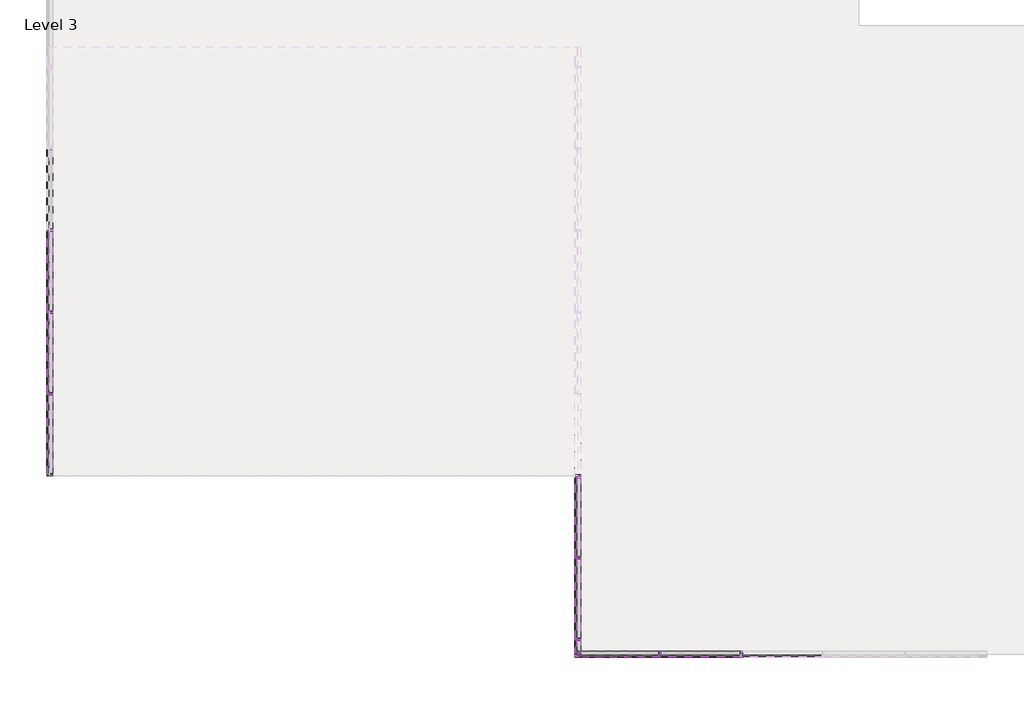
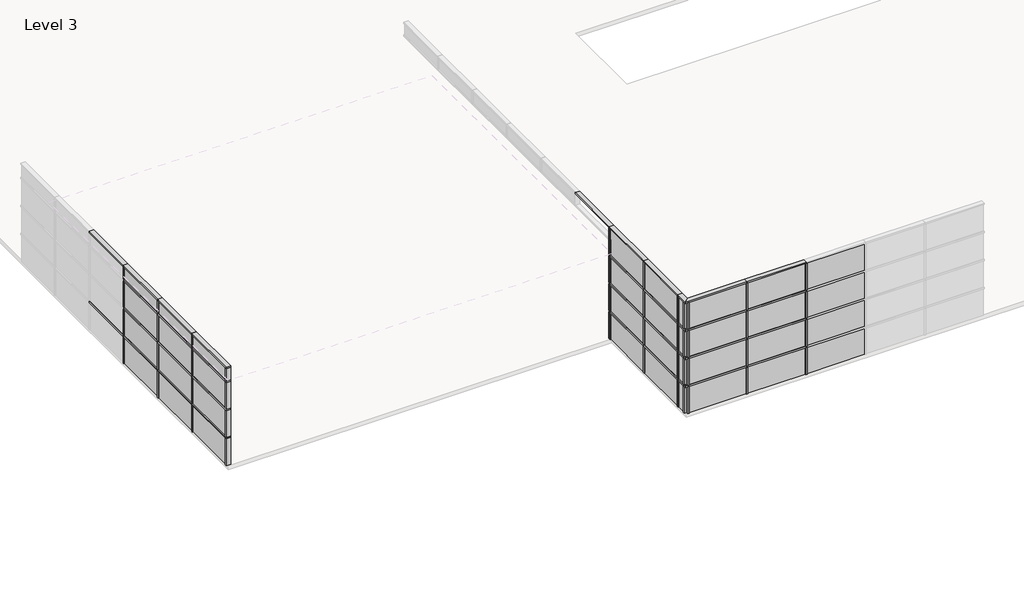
# One storey, part 1 of 6: 86 members, 36 plates.
"""IFC4 building model written with IfcOpenShell, lengths in millimetres."""

from ifc_helpers import new_model, si_unit, origin, place, context, project, spatial, transform, mapped, element, save
from components import rectangular_mullion_50_x_150mm_a053b0ca, rectangular_mullion_50_x_150mm_aa47fe12, rectangular_mullion_50_x_150mm_3a148f0f, rectangular_mullion_50_x_150mm_12a430f9, rectangular_mullion_50_x_150mm_0c16550b, rectangular_mullion_50_x_150mm_e050193c, rectangular_mullion_50_x_150mm_cc09da6b, rectangular_mullion_50_x_150mm_947845bb, rectangular_mullion_50_x_150mm_11df4cda, rectangular_mullion_50_x_150mm_92e7435e, rectangular_mullion_50_x_150mm_b8ab5643, rectangular_mullion_50_x_150mm_fe9a9d3e, system_panel_glazed_751a585c, system_panel_glazed_08de6f5f, system_panel_glazed_9a47c754, system_panel_glazed_4177c645, system_panel_glazed_7898dc84, system_panel_glazed_f73eb5fe

model = new_model("IFC4")

# Units and contexts
model_context = context("Model", 3, world=origin())
ifc_project = project(units=[si_unit("LENGTHUNIT", "METRE", prefix="MILLI")], contexts=[model_context])

# Site, building, storey
site = spatial("IfcSite", under=ifc_project)
building = spatial("IfcBuilding", under=site)
storey = spatial("IfcBuildingStorey", under=building, Name="Level 3", Elevation=8000.0)

# Members
placement = place(None, origin())
rectangular_mullion_50_x_150mm_shape = rectangular_mullion_50_x_150mm_a053b0ca(model_context)
element("IfcMember", 1, ObjectType="Rectangular Mullion : 50 x 150mm", at=placement, inside=storey, context=model_context, shape_type="MappedRepresentation", body=[
    mapped(rectangular_mullion_50_x_150mm_shape, transform((-3587.173406, -21988.7417365, 8025.0), x_axis=(1.0, 0.0, 0.0), y_axis=(0.0, -1.0, 0.0), z_axis=(0.0, 0.0, -1.0))),
])
element("IfcMember", 2, ObjectType="Rectangular Mullion : 50 x 150mm", at=placement, inside=storey, context=model_context, shape_type="MappedRepresentation", body=[
    mapped(rectangular_mullion_50_x_150mm_shape, transform((-3587.173406, -21988.7417365, 9025.0), x_axis=(1.0, 0.0, 0.0), y_axis=(0.0, -1.0, 0.0), z_axis=(0.0, 0.0, -1.0))),
])
element("IfcMember", 3, ObjectType="Rectangular Mullion : 50 x 150mm", at=placement, inside=storey, context=model_context, shape_type="MappedRepresentation", body=[
    mapped(rectangular_mullion_50_x_150mm_shape, transform((-3587.173406, -21988.7417365, 10025.0), x_axis=(1.0, 0.0, 0.0), y_axis=(0.0, -1.0, 0.0), z_axis=(0.0, 0.0, -1.0))),
])
element("IfcMember", 4, ObjectType="Rectangular Mullion : 50 x 150mm", at=placement, inside=storey, context=model_context, shape_type="MappedRepresentation", body=[
    mapped(rectangular_mullion_50_x_150mm_shape, transform((-3587.173406, -21988.7417365, 11025.0), x_axis=(1.0, 0.0, 0.0), y_axis=(0.0, -1.0, 0.0), z_axis=(0.0, 0.0, -1.0))),
])
element("IfcMember", 5, ObjectType="Rectangular Mullion : 50 x 150mm", at=placement, inside=storey, context=model_context, shape_type="MappedRepresentation", body=[
    mapped(rectangular_mullion_50_x_150mm_shape, transform((-1587.173406, -21988.7417365, 8025.0), x_axis=(1.0, 0.0, 0.0), y_axis=(0.0, -1.0, 0.0), z_axis=(0.0, 0.0, -1.0))),
])
element("IfcMember", 6, ObjectType="Rectangular Mullion : 50 x 150mm", at=placement, inside=storey, context=model_context, shape_type="MappedRepresentation", body=[
    mapped(rectangular_mullion_50_x_150mm_shape, transform((-1587.173406, -21988.7417365, 9025.0), x_axis=(1.0, 0.0, 0.0), y_axis=(0.0, -1.0, 0.0), z_axis=(0.0, 0.0, -1.0))),
])
element("IfcMember", 7, ObjectType="Rectangular Mullion : 50 x 150mm", at=placement, inside=storey, context=model_context, shape_type="MappedRepresentation", body=[
    mapped(rectangular_mullion_50_x_150mm_shape, transform((-1587.173406, -21988.7417365, 10025.0), x_axis=(1.0, 0.0, 0.0), y_axis=(0.0, -1.0, 0.0), z_axis=(0.0, 0.0, -1.0))),
])
element("IfcMember", 8, ObjectType="Rectangular Mullion : 50 x 150mm", at=placement, inside=storey, context=model_context, shape_type="MappedRepresentation", body=[
    mapped(rectangular_mullion_50_x_150mm_shape, transform((-1587.173406, -21988.7417365, 11025.0), x_axis=(1.0, 0.0, 0.0), y_axis=(0.0, -1.0, 0.0), z_axis=(0.0, 0.0, -1.0))),
])
element("IfcMember", 9, ObjectType="Rectangular Mullion : 50 x 150mm", at=placement, inside=storey, context=model_context, shape_type="MappedRepresentation", body=[
    mapped(rectangular_mullion_50_x_150mm_shape, transform((-5587.173406, -17624.0160434, 8025.0), x_axis=(0.0, -1.0, 0.0), y_axis=(-1.0, 0.0, 0.0), z_axis=(0.0, 0.0, -1.0))),
])
element("IfcMember", 10, ObjectType="Rectangular Mullion : 50 x 150mm", at=placement, inside=storey, context=model_context, shape_type="MappedRepresentation", body=[
    mapped(rectangular_mullion_50_x_150mm_shape, transform((-5587.173406, -17624.0160434, 9025.0), x_axis=(0.0, -1.0, 0.0), y_axis=(-1.0, 0.0, 0.0), z_axis=(0.0, 0.0, -0.9999999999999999))),
])
element("IfcMember", 11, ObjectType="Rectangular Mullion : 50 x 150mm", at=placement, inside=storey, context=model_context, shape_type="MappedRepresentation", body=[
    mapped(rectangular_mullion_50_x_150mm_shape, transform((-5587.173406, -17624.0160434, 10025.0), x_axis=(0.0, -1.0, 0.0), y_axis=(-1.0, 0.0, 0.0), z_axis=(0.0, 0.0, -1.0))),
])
element("IfcMember", 12, ObjectType="Rectangular Mullion : 50 x 150mm", at=placement, inside=storey, context=model_context, shape_type="MappedRepresentation", body=[
    mapped(rectangular_mullion_50_x_150mm_shape, transform((-5587.173406, -17624.0160434, 11025.0), x_axis=(0.0, -1.0, 0.0), y_axis=(-1.0, 0.0, 0.0), z_axis=(0.0, 0.0, -0.9999999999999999))),
])
element("IfcMember", 13, ObjectType="Rectangular Mullion : 50 x 150mm", at=placement, inside=storey, context=model_context, shape_type="MappedRepresentation", body=[
    mapped(rectangular_mullion_50_x_150mm_shape, transform((-5587.173406, -19624.0160434, 8025.0), x_axis=(0.0, -1.0, 0.0), y_axis=(-1.0, 0.0, 0.0), z_axis=(0.0, 0.0, -1.0))),
])
element("IfcMember", 14, ObjectType="Rectangular Mullion : 50 x 150mm", at=placement, inside=storey, context=model_context, shape_type="MappedRepresentation", body=[
    mapped(rectangular_mullion_50_x_150mm_shape, transform((-5587.173406, -19624.0160434, 9025.0), x_axis=(0.0, -1.0, 0.0), y_axis=(-1.0, 0.0, 0.0), z_axis=(0.0, 0.0, -0.9999999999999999))),
])
element("IfcMember", 15, ObjectType="Rectangular Mullion : 50 x 150mm", at=placement, inside=storey, context=model_context, shape_type="MappedRepresentation", body=[
    mapped(rectangular_mullion_50_x_150mm_shape, transform((-5587.173406, -19624.0160434, 10025.0), x_axis=(0.0, -1.0, 0.0), y_axis=(-1.0, 0.0, 0.0), z_axis=(0.0, 0.0, -1.0))),
])
element("IfcMember", 16, ObjectType="Rectangular Mullion : 50 x 150mm", at=placement, inside=storey, context=model_context, shape_type="MappedRepresentation", body=[
    mapped(rectangular_mullion_50_x_150mm_shape, transform((-5587.173406, -19624.0160434, 11025.0), x_axis=(0.0, -1.0, 0.0), y_axis=(-1.0, 0.0, 0.0), z_axis=(0.0, 0.0, -0.9999999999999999))),
])
element("IfcMember", 17, ObjectType="Rectangular Mullion : 50 x 150mm", at=placement, inside=storey, context=model_context, shape_type="MappedRepresentation", body=[
    mapped(rectangular_mullion_50_x_150mm_shape, transform((-5587.173406, -21624.0160434, 8025.0), x_axis=(0.0, -1.0, 0.0), y_axis=(-1.0, 0.0, 0.0), z_axis=(0.0, 0.0, -1.0))),
])
element("IfcMember", 18, ObjectType="Rectangular Mullion : 50 x 150mm", at=placement, inside=storey, context=model_context, shape_type="MappedRepresentation", body=[
    mapped(rectangular_mullion_50_x_150mm_shape, transform((-5587.173406, -21624.0160434, 9025.0), x_axis=(0.0, -1.0, 0.0), y_axis=(-1.0, 0.0, 0.0), z_axis=(0.0, 0.0, -1.0))),
])
element("IfcMember", 19, ObjectType="Rectangular Mullion : 50 x 150mm", at=placement, inside=storey, context=model_context, shape_type="MappedRepresentation", body=[
    mapped(rectangular_mullion_50_x_150mm_shape, transform((-5587.173406, -21624.0160434, 10025.0), x_axis=(0.0, -1.0, 0.0), y_axis=(-1.0, 0.0, 0.0), z_axis=(0.0, 0.0, -1.0))),
])
element("IfcMember", 20, ObjectType="Rectangular Mullion : 50 x 150mm", at=placement, inside=storey, context=model_context, shape_type="MappedRepresentation", body=[
    mapped(rectangular_mullion_50_x_150mm_shape, transform((-5587.173406, -21624.0160434, 11025.0), x_axis=(0.0, -1.0, 0.0), y_axis=(-1.0, 0.0, 0.0), z_axis=(0.0, 0.0, -1.0))),
])
element("IfcMember", 21, ObjectType="Rectangular Mullion : 50 x 150mm", at=placement, inside=storey, context=model_context, shape_type="MappedRepresentation", body=[
    mapped(rectangular_mullion_50_x_150mm_shape, transform((-18496.7339025, -11624.0160434, 8025.0), x_axis=(0.0, -1.0, 0.0), y_axis=(-1.0, 0.0, 0.0), z_axis=(0.0, 0.0, -1.0))),
])
element("IfcMember", 22, ObjectType="Rectangular Mullion : 50 x 150mm", at=placement, inside=storey, context=model_context, shape_type="MappedRepresentation", body=[
    mapped(rectangular_mullion_50_x_150mm_shape, transform((-18496.7339025, -11624.0160434, 9025.0), x_axis=(0.0, -1.0, 0.0), y_axis=(-1.0, 0.0, 0.0), z_axis=(0.0, 0.0, -0.9999999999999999))),
])
element("IfcMember", 23, ObjectType="Rectangular Mullion : 50 x 150mm", at=placement, inside=storey, context=model_context, shape_type="MappedRepresentation", body=[
    mapped(rectangular_mullion_50_x_150mm_shape, transform((-18496.7339025, -11624.0160434, 10025.0), x_axis=(0.0, -1.0, 0.0), y_axis=(-1.0, 0.0, 0.0), z_axis=(0.0, 0.0, -1.0))),
])
element("IfcMember", 24, ObjectType="Rectangular Mullion : 50 x 150mm", at=placement, inside=storey, context=model_context, shape_type="MappedRepresentation", body=[
    mapped(rectangular_mullion_50_x_150mm_shape, transform((-18496.7339025, -13624.0160434, 8025.0), x_axis=(0.0, -1.0, 0.0), y_axis=(-1.0, 0.0, 0.0), z_axis=(0.0, 0.0, -1.0))),
])
element("IfcMember", 25, ObjectType="Rectangular Mullion : 50 x 150mm", at=placement, inside=storey, context=model_context, shape_type="MappedRepresentation", body=[
    mapped(rectangular_mullion_50_x_150mm_shape, transform((-18496.7339025, -13624.0160434, 9025.0), x_axis=(0.0, -1.0, 0.0), y_axis=(-1.0, 0.0, 0.0), z_axis=(0.0, 0.0, -0.9999999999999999))),
])
element("IfcMember", 26, ObjectType="Rectangular Mullion : 50 x 150mm", at=placement, inside=storey, context=model_context, shape_type="MappedRepresentation", body=[
    mapped(rectangular_mullion_50_x_150mm_shape, transform((-18496.7339025, -13624.0160434, 10025.0), x_axis=(0.0, -1.0, 0.0), y_axis=(-1.0, 0.0, 0.0), z_axis=(0.0, 0.0, -1.0))),
])
element("IfcMember", 27, ObjectType="Rectangular Mullion : 50 x 150mm", at=placement, inside=storey, context=model_context, shape_type="MappedRepresentation", body=[
    mapped(rectangular_mullion_50_x_150mm_shape, transform((-18496.7339025, -15624.0160434, 8025.0), x_axis=(0.0, -1.0, 0.0), y_axis=(-1.0, 0.0, 0.0), z_axis=(0.0, 0.0, -1.0))),
])
element("IfcMember", 28, ObjectType="Rectangular Mullion : 50 x 150mm", at=placement, inside=storey, context=model_context, shape_type="MappedRepresentation", body=[
    mapped(rectangular_mullion_50_x_150mm_shape, transform((-18496.7339025, -15624.0160434, 9025.0), x_axis=(0.0, -1.0, 0.0), y_axis=(-1.0, 0.0, 0.0), z_axis=(0.0, 0.0, -0.9999999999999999))),
])
element("IfcMember", 29, ObjectType="Rectangular Mullion : 50 x 150mm", at=placement, inside=storey, context=model_context, shape_type="MappedRepresentation", body=[
    mapped(rectangular_mullion_50_x_150mm_shape, transform((-18496.7339025, -15624.0160434, 10025.0), x_axis=(0.0, -1.0, 0.0), y_axis=(-1.0, 0.0, 0.0), z_axis=(0.0, 0.0, -1.0))),
])
rectangular_mullion_50_x_150mm_2_shape = rectangular_mullion_50_x_150mm_aa47fe12(model_context)
element("IfcMember", 30, ObjectType="Rectangular Mullion : 50 x 150mm", at=placement, inside=storey, context=model_context, shape_type="MappedRepresentation", body=[
    mapped(rectangular_mullion_50_x_150mm_2_shape, transform((-18496.7339025, -11624.0160434, 11530.2574105), x_axis=(0.0, 0.0, 1.0), y_axis=(-1.0, 0.0, 0.0), z_axis=(0.0, -1.0, 0.0))),
])
element("IfcMember", 31, ObjectType="Rectangular Mullion : 50 x 150mm", at=placement, inside=storey, context=model_context, shape_type="MappedRepresentation", body=[
    mapped(rectangular_mullion_50_x_150mm_2_shape, transform((-18496.7339025, -13624.0160434, 11530.2574105), x_axis=(0.0, 0.0, 1.0), y_axis=(-1.0, 0.0, 0.0), z_axis=(0.0, -1.0, 0.0))),
])
element("IfcMember", 32, ObjectType="Rectangular Mullion : 50 x 150mm", at=placement, inside=storey, context=model_context, shape_type="MappedRepresentation", body=[
    mapped(rectangular_mullion_50_x_150mm_2_shape, transform((-18496.7339025, -15624.0160434, 11530.2574105), x_axis=(0.0, 0.0, 1.0), y_axis=(-1.0, 0.0, 0.0), z_axis=(0.0, -1.0, 0.0))),
])
rectangular_mullion_50_x_150mm_3_shape = rectangular_mullion_50_x_150mm_3a148f0f(model_context)
element("IfcMember", 33, ObjectType="Rectangular Mullion : 50 x 150mm", at=placement, inside=storey, context=model_context, shape_type="MappedRepresentation", body=[
    mapped(rectangular_mullion_50_x_150mm_3_shape, transform((-1587.173406, -21988.7417365, 9000.0), x_axis=(0.0, 0.0, 1.0), y_axis=(0.0, -1.0, 0.0), z_axis=(1.0, 0.0, 0.0))),
])
element("IfcMember", 34, ObjectType="Rectangular Mullion : 50 x 150mm", at=placement, inside=storey, context=model_context, shape_type="MappedRepresentation", body=[
    mapped(rectangular_mullion_50_x_150mm_3_shape, transform((-1587.173406, -21988.7417365, 10000.0), x_axis=(0.0, 0.0, 1.0), y_axis=(0.0, -1.0, 0.0), z_axis=(1.0, 0.0, 0.0))),
])
element("IfcMember", 35, ObjectType="Rectangular Mullion : 50 x 150mm", at=placement, inside=storey, context=model_context, shape_type="MappedRepresentation", body=[
    mapped(rectangular_mullion_50_x_150mm_3_shape, transform((-1587.173406, -21988.7417365, 11000.0), x_axis=(0.0, 0.0, 1.0), y_axis=(0.0, -1.0, 0.0), z_axis=(1.0, 0.0, 0.0))),
])
element("IfcMember", 36, ObjectType="Rectangular Mullion : 50 x 150mm", at=placement, inside=storey, context=model_context, shape_type="MappedRepresentation", body=[
    mapped(rectangular_mullion_50_x_150mm_3_shape, transform((-1587.173406, -21988.7417365, 12000.0), x_axis=(0.0, 0.0, 1.0), y_axis=(0.0, -1.0, 0.0), z_axis=(1.0, 0.0, 0.0))),
])
element("IfcMember", 37, ObjectType="Rectangular Mullion : 50 x 150mm", at=placement, inside=storey, context=model_context, shape_type="MappedRepresentation", body=[
    mapped(rectangular_mullion_50_x_150mm_3_shape, transform((-5587.173406, -19624.0160434, 9000.0), x_axis=(0.0, 0.0, 1.0), y_axis=(-1.0, 0.0, 0.0), z_axis=(0.0, -1.0, 0.0))),
])
element("IfcMember", 38, ObjectType="Rectangular Mullion : 50 x 150mm", at=placement, inside=storey, context=model_context, shape_type="MappedRepresentation", body=[
    mapped(rectangular_mullion_50_x_150mm_3_shape, transform((-5587.173406, -21624.0160434, 9000.0), x_axis=(0.0, 0.0, 1.0), y_axis=(-1.0, 0.0, 0.0), z_axis=(0.0, -1.0, 0.0))),
])
element("IfcMember", 39, ObjectType="Rectangular Mullion : 50 x 150mm", at=placement, inside=storey, context=model_context, shape_type="MappedRepresentation", body=[
    mapped(rectangular_mullion_50_x_150mm_3_shape, transform((-5587.173406, -19624.0160434, 10000.0), x_axis=(0.0, 0.0, 1.0), y_axis=(-1.0, 0.0, 0.0), z_axis=(0.0, -1.0, 0.0))),
])
element("IfcMember", 40, ObjectType="Rectangular Mullion : 50 x 150mm", at=placement, inside=storey, context=model_context, shape_type="MappedRepresentation", body=[
    mapped(rectangular_mullion_50_x_150mm_3_shape, transform((-5587.173406, -21624.0160434, 10000.0), x_axis=(0.0, 0.0, 1.0), y_axis=(-1.0, 0.0, 0.0), z_axis=(0.0, -1.0, 0.0))),
])
element("IfcMember", 41, ObjectType="Rectangular Mullion : 50 x 150mm", at=placement, inside=storey, context=model_context, shape_type="MappedRepresentation", body=[
    mapped(rectangular_mullion_50_x_150mm_3_shape, transform((-5587.173406, -19624.0160434, 11000.0), x_axis=(0.0, 0.0, 1.0), y_axis=(-1.0, 0.0, 0.0), z_axis=(0.0, -1.0, 0.0))),
])
element("IfcMember", 42, ObjectType="Rectangular Mullion : 50 x 150mm", at=placement, inside=storey, context=model_context, shape_type="MappedRepresentation", body=[
    mapped(rectangular_mullion_50_x_150mm_3_shape, transform((-5587.173406, -21624.0160434, 11000.0), x_axis=(0.0, 0.0, 1.0), y_axis=(-1.0, 0.0, 0.0), z_axis=(0.0, -1.0, 0.0))),
])
element("IfcMember", 43, ObjectType="Rectangular Mullion : 50 x 150mm", at=placement, inside=storey, context=model_context, shape_type="MappedRepresentation", body=[
    mapped(rectangular_mullion_50_x_150mm_3_shape, transform((-5587.173406, -17624.0160434, 12000.0), x_axis=(0.0, 0.0, 1.0), y_axis=(-1.0, 0.0, 0.0), z_axis=(0.0, -1.0, 0.0))),
])
element("IfcMember", 44, ObjectType="Rectangular Mullion : 50 x 150mm", at=placement, inside=storey, context=model_context, shape_type="MappedRepresentation", body=[
    mapped(rectangular_mullion_50_x_150mm_3_shape, transform((-5587.173406, -19624.0160434, 12000.0), x_axis=(0.0, 0.0, 1.0), y_axis=(-1.0, 0.0, 0.0), z_axis=(0.0, -1.0, 0.0))),
])
element("IfcMember", 45, ObjectType="Rectangular Mullion : 50 x 150mm", at=placement, inside=storey, context=model_context, shape_type="MappedRepresentation", body=[
    mapped(rectangular_mullion_50_x_150mm_3_shape, transform((-5587.173406, -21624.0160434, 12000.0), x_axis=(0.0, 0.0, 1.0), y_axis=(-1.0, 0.0, 0.0), z_axis=(0.0, -1.0, 0.0))),
])
element("IfcMember", 46, ObjectType="Rectangular Mullion : 50 x 150mm", at=placement, inside=storey, context=model_context, shape_type="MappedRepresentation", body=[
    mapped(rectangular_mullion_50_x_150mm_3_shape, transform((-18496.7339025, -11624.0160434, 9000.0), x_axis=(0.0, 0.0, 1.0), y_axis=(-1.0, 0.0, 0.0), z_axis=(0.0, -1.0, 0.0))),
])
element("IfcMember", 47, ObjectType="Rectangular Mullion : 50 x 150mm", at=placement, inside=storey, context=model_context, shape_type="MappedRepresentation", body=[
    mapped(rectangular_mullion_50_x_150mm_3_shape, transform((-18496.7339025, -13624.0160434, 9000.0), x_axis=(0.0, 0.0, 1.0), y_axis=(-1.0, 0.0, 0.0), z_axis=(0.0, -1.0, 0.0))),
])
element("IfcMember", 48, ObjectType="Rectangular Mullion : 50 x 150mm", at=placement, inside=storey, context=model_context, shape_type="MappedRepresentation", body=[
    mapped(rectangular_mullion_50_x_150mm_3_shape, transform((-18496.7339025, -15624.0160434, 9000.0), x_axis=(0.0, 0.0, 1.0), y_axis=(-1.0, 0.0, 0.0), z_axis=(0.0, -1.0, 0.0))),
])
element("IfcMember", 49, ObjectType="Rectangular Mullion : 50 x 150mm", at=placement, inside=storey, context=model_context, shape_type="MappedRepresentation", body=[
    mapped(rectangular_mullion_50_x_150mm_3_shape, transform((-18496.7339025, -13624.0160434, 10000.0), x_axis=(0.0, 0.0, 1.0), y_axis=(-1.0, 0.0, 0.0), z_axis=(0.0, -1.0, 0.0))),
])
element("IfcMember", 50, ObjectType="Rectangular Mullion : 50 x 150mm", at=placement, inside=storey, context=model_context, shape_type="MappedRepresentation", body=[
    mapped(rectangular_mullion_50_x_150mm_3_shape, transform((-18496.7339025, -15624.0160434, 10000.0), x_axis=(0.0, 0.0, 1.0), y_axis=(-1.0, 0.0, 0.0), z_axis=(0.0, -1.0, 0.0))),
])
element("IfcMember", 51, ObjectType="Rectangular Mullion : 50 x 150mm", at=placement, inside=storey, context=model_context, shape_type="MappedRepresentation", body=[
    mapped(rectangular_mullion_50_x_150mm_3_shape, transform((-18496.7339025, -13624.0160434, 11000.0), x_axis=(0.0, 0.0, 1.0), y_axis=(-1.0, 0.0, 0.0), z_axis=(0.0, -1.0, 0.0))),
])
element("IfcMember", 52, ObjectType="Rectangular Mullion : 50 x 150mm", at=placement, inside=storey, context=model_context, shape_type="MappedRepresentation", body=[
    mapped(rectangular_mullion_50_x_150mm_3_shape, transform((-18496.7339025, -15624.0160434, 11000.0), x_axis=(0.0, 0.0, 1.0), y_axis=(-1.0, 0.0, 0.0), z_axis=(0.0, -1.0, 0.0))),
])
rectangular_mullion_50_x_150mm_4_shape = rectangular_mullion_50_x_150mm_12a430f9(model_context)
element("IfcMember", 53, ObjectType="Rectangular Mullion : 50 x 150mm", at=placement, inside=storey, context=model_context, shape_type="MappedRepresentation", body=[
    mapped(rectangular_mullion_50_x_150mm_4_shape, transform((-5587.173406, -21988.7417365, 8975.0), x_axis=(-1.0, 0.0, 0.0), y_axis=(0.0, -1.0, 0.0), z_axis=(0.0, 0.0, 1.0))),
])
element("IfcMember", 54, ObjectType="Rectangular Mullion : 50 x 150mm", at=placement, inside=storey, context=model_context, shape_type="MappedRepresentation", body=[
    mapped(rectangular_mullion_50_x_150mm_4_shape, transform((-5587.173406, -21988.7417365, 9975.0), x_axis=(-1.0, 0.0, 0.0), y_axis=(0.0, -1.0, 0.0), z_axis=(0.0, 0.0, 1.0))),
])
element("IfcMember", 55, ObjectType="Rectangular Mullion : 50 x 150mm", at=placement, inside=storey, context=model_context, shape_type="MappedRepresentation", body=[
    mapped(rectangular_mullion_50_x_150mm_4_shape, transform((-5587.173406, -21988.7417365, 10975.0), x_axis=(-1.0, 0.0, 0.0), y_axis=(0.0, -1.0, 0.0), z_axis=(0.0, 0.0, 1.0))),
])
element("IfcMember", 56, ObjectType="Rectangular Mullion : 50 x 150mm", at=placement, inside=storey, context=model_context, shape_type="MappedRepresentation", body=[
    mapped(rectangular_mullion_50_x_150mm_4_shape, transform((-5587.173406, -21988.7417365, 11975.0), x_axis=(-1.0, 0.0, 0.0), y_axis=(0.0, -1.0, 0.0), z_axis=(0.0, 0.0, 1.0))),
])
element("IfcMember", 57, ObjectType="Rectangular Mullion : 50 x 150mm", at=placement, inside=storey, context=model_context, shape_type="MappedRepresentation", body=[
    mapped(rectangular_mullion_50_x_150mm_4_shape, transform((-5587.173406, -17621.30803, 8975.0), x_axis=(0.0, 1.0, 0.0), y_axis=(-1.0, 0.0, 0.0), z_axis=(0.0, 0.0, 1.0))),
])
element("IfcMember", 58, ObjectType="Rectangular Mullion : 50 x 150mm", at=placement, inside=storey, context=model_context, shape_type="MappedRepresentation", body=[
    mapped(rectangular_mullion_50_x_150mm_4_shape, transform((-5587.173406, -17621.30803, 9975.0), x_axis=(0.0, 1.0, 0.0), y_axis=(-1.0, 0.0, 0.0), z_axis=(0.0, 0.0, 0.9999999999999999))),
])
element("IfcMember", 59, ObjectType="Rectangular Mullion : 50 x 150mm", at=placement, inside=storey, context=model_context, shape_type="MappedRepresentation", body=[
    mapped(rectangular_mullion_50_x_150mm_4_shape, transform((-5587.173406, -17621.30803, 10975.0), x_axis=(0.0, 1.0, 0.0), y_axis=(-1.0, 0.0, 0.0), z_axis=(0.0, 0.0, 1.0))),
])
element("IfcMember", 60, ObjectType="Rectangular Mullion : 50 x 150mm", at=placement, inside=storey, context=model_context, shape_type="MappedRepresentation", body=[
    mapped(rectangular_mullion_50_x_150mm_4_shape, transform((-5587.173406, -21988.7417365, 8025.0), x_axis=(0.0, -1.0, 0.0), y_axis=(-1.0, 0.0, 0.0), z_axis=(0.0, 0.0, -1.0))),
])
element("IfcMember", 61, ObjectType="Rectangular Mullion : 50 x 150mm", at=placement, inside=storey, context=model_context, shape_type="MappedRepresentation", body=[
    mapped(rectangular_mullion_50_x_150mm_4_shape, transform((-5587.173406, -21988.7417365, 9025.0), x_axis=(0.0, -1.0, 0.0), y_axis=(-1.0, 0.0, 0.0), z_axis=(0.0, 0.0, -1.0))),
])
element("IfcMember", 62, ObjectType="Rectangular Mullion : 50 x 150mm", at=placement, inside=storey, context=model_context, shape_type="MappedRepresentation", body=[
    mapped(rectangular_mullion_50_x_150mm_4_shape, transform((-5587.173406, -21988.7417365, 10025.0), x_axis=(0.0, -1.0, 0.0), y_axis=(-1.0, 0.0, 0.0), z_axis=(0.0, 0.0, -1.0))),
])
element("IfcMember", 63, ObjectType="Rectangular Mullion : 50 x 150mm", at=placement, inside=storey, context=model_context, shape_type="MappedRepresentation", body=[
    mapped(rectangular_mullion_50_x_150mm_4_shape, transform((-5587.173406, -21988.7417365, 11025.0), x_axis=(0.0, -1.0, 0.0), y_axis=(-1.0, 0.0, 0.0), z_axis=(0.0, 0.0, -1.0))),
])
element("IfcMember", 64, ObjectType="Rectangular Mullion : 50 x 150mm", at=placement, inside=storey, context=model_context, shape_type="MappedRepresentation", body=[
    mapped(rectangular_mullion_50_x_150mm_4_shape, transform((-18496.7339025, -17621.30803, 8025.0), x_axis=(0.0, -1.0, 0.0), y_axis=(-1.0, 0.0, 0.0), z_axis=(0.0, 0.0, -1.0))),
])
element("IfcMember", 65, ObjectType="Rectangular Mullion : 50 x 150mm", at=placement, inside=storey, context=model_context, shape_type="MappedRepresentation", body=[
    mapped(rectangular_mullion_50_x_150mm_4_shape, transform((-18496.7339025, -17621.30803, 9025.0), x_axis=(0.0, -1.0, 0.0), y_axis=(-1.0, 0.0, 0.0), z_axis=(0.0, 0.0, -0.9999999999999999))),
])
element("IfcMember", 66, ObjectType="Rectangular Mullion : 50 x 150mm", at=placement, inside=storey, context=model_context, shape_type="MappedRepresentation", body=[
    mapped(rectangular_mullion_50_x_150mm_4_shape, transform((-18496.7339025, -17621.30803, 10025.0), x_axis=(0.0, -1.0, 0.0), y_axis=(-1.0, 0.0, 0.0), z_axis=(0.0, 0.0, -1.0))),
])
rectangular_mullion_50_x_150mm_5_shape = rectangular_mullion_50_x_150mm_0c16550b(model_context)
element("IfcMember", 67, ObjectType="Rectangular Mullion : 50 x 150mm", at=placement, inside=storey, context=model_context, shape_type="MappedRepresentation", body=[
    mapped(rectangular_mullion_50_x_150mm_5_shape, transform((-5587.173406, -17621.30803, 11530.2574105), x_axis=(0.0, 1.0, 0.0), y_axis=(-1.0, 0.0, 0.0), z_axis=(0.0, 0.0, 1.0))),
])
rectangular_mullion_50_x_150mm_6_shape = rectangular_mullion_50_x_150mm_e050193c(model_context)
element("IfcMember", 68, ObjectType="Rectangular Mullion : 50 x 150mm", at=placement, inside=storey, context=model_context, shape_type="MappedRepresentation", body=[
    mapped(rectangular_mullion_50_x_150mm_6_shape, transform((-5587.173406, -17624.0160434, 9000.0), x_axis=(0.0, 0.0, 1.0), y_axis=(-1.0, 0.0, 0.0), z_axis=(0.0, -1.0, 0.0))),
])
element("IfcMember", 69, ObjectType="Rectangular Mullion : 50 x 150mm", at=placement, inside=storey, context=model_context, shape_type="MappedRepresentation", body=[
    mapped(rectangular_mullion_50_x_150mm_6_shape, transform((-5587.173406, -17624.0160434, 10000.0), x_axis=(0.0, 0.0, 1.0), y_axis=(-1.0, 0.0, 0.0), z_axis=(0.0, -1.0, 0.0))),
])
element("IfcMember", 70, ObjectType="Rectangular Mullion : 50 x 150mm", at=placement, inside=storey, context=model_context, shape_type="MappedRepresentation", body=[
    mapped(rectangular_mullion_50_x_150mm_6_shape, transform((-5587.173406, -17624.0160434, 11000.0), x_axis=(0.0, 0.0, 1.0), y_axis=(-1.0, 0.0, 0.0), z_axis=(0.0, -1.0, 0.0))),
])
rectangular_mullion_50_x_150mm_7_shape = rectangular_mullion_50_x_150mm_cc09da6b(model_context)
element("IfcMember", 71, ObjectType="Rectangular Mullion : 50 x 150mm", at=placement, inside=storey, context=model_context, shape_type="MappedRepresentation", body=[
    mapped(rectangular_mullion_50_x_150mm_7_shape, transform((-5587.173406, -21988.7417365, 9000.0), x_axis=(0.0, 0.0, 1.0), y_axis=(-1.0, 0.0, 0.0), z_axis=(0.0, -1.0, 0.0))),
])
element("IfcMember", 72, ObjectType="Rectangular Mullion : 50 x 150mm", at=placement, inside=storey, context=model_context, shape_type="MappedRepresentation", body=[
    mapped(rectangular_mullion_50_x_150mm_7_shape, transform((-5587.173406, -21988.7417365, 10000.0), x_axis=(0.0, 0.0, 1.0), y_axis=(-1.0, 0.0, 0.0), z_axis=(0.0, -1.0, 0.0))),
])
element("IfcMember", 73, ObjectType="Rectangular Mullion : 50 x 150mm", at=placement, inside=storey, context=model_context, shape_type="MappedRepresentation", body=[
    mapped(rectangular_mullion_50_x_150mm_7_shape, transform((-5587.173406, -21988.7417365, 11000.0), x_axis=(0.0, 0.0, 1.0), y_axis=(-1.0, 0.0, 0.0), z_axis=(0.0, -1.0, 0.0))),
])
element("IfcMember", 74, ObjectType="Rectangular Mullion : 50 x 150mm", at=placement, inside=storey, context=model_context, shape_type="MappedRepresentation", body=[
    mapped(rectangular_mullion_50_x_150mm_7_shape, transform((-5587.173406, -21988.7417365, 12000.0), x_axis=(0.0, 0.0, 1.0), y_axis=(-1.0, 0.0, 0.0), z_axis=(0.0, -1.0, 0.0))),
])
rectangular_mullion_50_x_150mm_8_shape = rectangular_mullion_50_x_150mm_947845bb(model_context)
element("IfcMember", 75, ObjectType="Rectangular Mullion : 50 x 150mm", at=placement, inside=storey, context=model_context, shape_type="MappedRepresentation", body=[
    mapped(rectangular_mullion_50_x_150mm_8_shape, transform((-3587.173406, -21988.7417365, 9000.0), x_axis=(0.0, 0.0, 1.0), y_axis=(0.0, -1.0, 0.0), z_axis=(1.0, 0.0, 0.0))),
])
element("IfcMember", 76, ObjectType="Rectangular Mullion : 50 x 150mm", at=placement, inside=storey, context=model_context, shape_type="MappedRepresentation", body=[
    mapped(rectangular_mullion_50_x_150mm_8_shape, transform((-3587.173406, -21988.7417365, 10000.0), x_axis=(0.0, 0.0, 1.0), y_axis=(0.0, -1.0, 0.0), z_axis=(1.0, 0.0, 0.0))),
])
element("IfcMember", 77, ObjectType="Rectangular Mullion : 50 x 150mm", at=placement, inside=storey, context=model_context, shape_type="MappedRepresentation", body=[
    mapped(rectangular_mullion_50_x_150mm_8_shape, transform((-3587.173406, -21988.7417365, 11000.0), x_axis=(0.0, 0.0, 1.0), y_axis=(0.0, -1.0, 0.0), z_axis=(1.0, 0.0, 0.0))),
])
element("IfcMember", 78, ObjectType="Rectangular Mullion : 50 x 150mm", at=placement, inside=storey, context=model_context, shape_type="MappedRepresentation", body=[
    mapped(rectangular_mullion_50_x_150mm_8_shape, transform((-3587.173406, -21988.7417365, 12000.0), x_axis=(0.0, 0.0, 1.0), y_axis=(0.0, -1.0, 0.0), z_axis=(1.0, 0.0, 0.0))),
])
rectangular_mullion_50_x_150mm_9_shape = rectangular_mullion_50_x_150mm_11df4cda(model_context)
element("IfcMember", 79, ObjectType="Rectangular Mullion : 50 x 150mm", at=placement, inside=storey, context=model_context, shape_type="MappedRepresentation", body=[
    mapped(rectangular_mullion_50_x_150mm_9_shape, transform((-18496.7339025, -17621.30803, 11025.0), x_axis=(0.0, -1.0, 0.0), y_axis=(-1.0, 0.0, 0.0), z_axis=(0.0, 0.0, -1.0))),
])
rectangular_mullion_50_x_150mm_10_shape = rectangular_mullion_50_x_150mm_92e7435e(model_context)
element("IfcMember", 80, ObjectType="Rectangular Mullion : 50 x 150mm", at=placement, inside=storey, context=model_context, shape_type="MappedRepresentation", body=[
    mapped(rectangular_mullion_50_x_150mm_10_shape, transform((-18496.7339025, -11624.0160434, 11025.0), x_axis=(0.0, -1.0, 0.0), y_axis=(-1.0, 0.0, 0.0), z_axis=(0.0, 0.0, -1.0))),
])
element("IfcMember", 81, ObjectType="Rectangular Mullion : 50 x 150mm", at=placement, inside=storey, context=model_context, shape_type="MappedRepresentation", body=[
    mapped(rectangular_mullion_50_x_150mm_10_shape, transform((-18496.7339025, -13624.0160434, 11025.0), x_axis=(0.0, -1.0, 0.0), y_axis=(-1.0, 0.0, 0.0), z_axis=(0.0, 0.0, -1.0))),
])
element("IfcMember", 82, ObjectType="Rectangular Mullion : 50 x 150mm", at=placement, inside=storey, context=model_context, shape_type="MappedRepresentation", body=[
    mapped(rectangular_mullion_50_x_150mm_10_shape, transform((-18496.7339025, -15624.0160434, 11025.0), x_axis=(0.0, -1.0, 0.0), y_axis=(-1.0, 0.0, 0.0), z_axis=(0.0, 0.0, -1.0))),
])
rectangular_mullion_50_x_150mm_11_shape = rectangular_mullion_50_x_150mm_b8ab5643(model_context)
element("IfcMember", 83, ObjectType="Rectangular Mullion : 50 x 150mm", at=placement, inside=storey, context=model_context, shape_type="MappedRepresentation", body=[
    mapped(rectangular_mullion_50_x_150mm_11_shape, transform((-18496.7339025, -17621.30803, 9000.0), x_axis=(0.0, 0.0, 1.0), y_axis=(-1.0, 0.0, 0.0), z_axis=(0.0, -1.0, 0.0))),
])
element("IfcMember", 84, ObjectType="Rectangular Mullion : 50 x 150mm", at=placement, inside=storey, context=model_context, shape_type="MappedRepresentation", body=[
    mapped(rectangular_mullion_50_x_150mm_11_shape, transform((-18496.7339025, -17621.30803, 10000.0), x_axis=(0.0, 0.0, 1.0), y_axis=(-1.0, 0.0, 0.0), z_axis=(0.0, -1.0, 0.0))),
])
element("IfcMember", 85, ObjectType="Rectangular Mullion : 50 x 150mm", at=placement, inside=storey, context=model_context, shape_type="MappedRepresentation", body=[
    mapped(rectangular_mullion_50_x_150mm_11_shape, transform((-18496.7339025, -17621.30803, 11000.0), x_axis=(0.0, 0.0, 1.0), y_axis=(-1.0, 0.0, 0.0), z_axis=(0.0, -1.0, 0.0))),
])
rectangular_mullion_50_x_150mm_12_shape = rectangular_mullion_50_x_150mm_fe9a9d3e(model_context)
element("IfcMember", 86, ObjectType="Rectangular Mullion : 50 x 150mm", at=placement, inside=storey, context=model_context, shape_type="MappedRepresentation", body=[
    mapped(rectangular_mullion_50_x_150mm_12_shape, transform((-18496.7339025, -17621.30803, 11530.2574105), x_axis=(0.0, 0.0, 1.0), y_axis=(-1.0, 0.0, 0.0), z_axis=(0.0, -1.0, 0.0))),
])

# Plates
system_panel_glazed_shape = system_panel_glazed_751a585c(model_context)
element("IfcPlate", 87, ObjectType="System Panel : Glazed", at=placement, inside=storey, context=model_context, shape_type="MappedRepresentation", body=[
    mapped(system_panel_glazed_shape, transform((-5537.173406, -21988.7417365, 8500.0), x_axis=(0.0, 0.0, 1.0), y_axis=(0.0, -1.0, 0.0), z_axis=(1.0, 0.0, 0.0))),
])
element("IfcPlate", 88, ObjectType="System Panel : Glazed", at=placement, inside=storey, context=model_context, shape_type="MappedRepresentation", body=[
    mapped(system_panel_glazed_shape, transform((-5537.173406, -21988.7417365, 9500.0), x_axis=(0.0, 0.0, 1.0), y_axis=(0.0, -1.0, 0.0), z_axis=(1.0, 0.0, 0.0))),
])
element("IfcPlate", 89, ObjectType="System Panel : Glazed", at=placement, inside=storey, context=model_context, shape_type="MappedRepresentation", body=[
    mapped(system_panel_glazed_shape, transform((-5537.173406, -21988.7417365, 10500.0), x_axis=(0.0, 0.0, 1.0), y_axis=(0.0, -1.0, 0.0), z_axis=(1.0, 0.0, 0.0))),
])
element("IfcPlate", 90, ObjectType="System Panel : Glazed", at=placement, inside=storey, context=model_context, shape_type="MappedRepresentation", body=[
    mapped(system_panel_glazed_shape, transform((-5537.173406, -21988.7417365, 11500.0), x_axis=(0.0, 0.0, 1.0), y_axis=(0.0, -1.0, 0.0), z_axis=(1.0, 0.0, 0.0))),
])
system_panel_glazed_2_shape = system_panel_glazed_08de6f5f(model_context)
element("IfcPlate", 91, ObjectType="System Panel : Glazed", at=placement, inside=storey, context=model_context, shape_type="MappedRepresentation", body=[
    mapped(system_panel_glazed_2_shape, transform((-5587.173406, -17649.0160434, 8500.0), x_axis=(0.0, 0.0, 1.0), y_axis=(-1.0, 0.0, 0.0), z_axis=(0.0, -1.0, 0.0))),
])
element("IfcPlate", 92, ObjectType="System Panel : Glazed", at=placement, inside=storey, context=model_context, shape_type="MappedRepresentation", body=[
    mapped(system_panel_glazed_2_shape, transform((-5587.173406, -17649.0160434, 9500.0), x_axis=(0.0, 0.0, 1.0), y_axis=(-1.0, 0.0, 0.0), z_axis=(0.0, -1.0, 0.0))),
])
element("IfcPlate", 93, ObjectType="System Panel : Glazed", at=placement, inside=storey, context=model_context, shape_type="MappedRepresentation", body=[
    mapped(system_panel_glazed_2_shape, transform((-5587.173406, -19649.0160434, 8500.0), x_axis=(0.0, 0.0, 1.0), y_axis=(-1.0, 0.0, 0.0), z_axis=(0.0, -1.0, 0.0))),
])
element("IfcPlate", 94, ObjectType="System Panel : Glazed", at=placement, inside=storey, context=model_context, shape_type="MappedRepresentation", body=[
    mapped(system_panel_glazed_2_shape, transform((-5587.173406, -19649.0160434, 9500.0), x_axis=(0.0, 0.0, 1.0), y_axis=(-1.0, 0.0, 0.0), z_axis=(0.0, -1.0, 0.0))),
])
element("IfcPlate", 95, ObjectType="System Panel : Glazed", at=placement, inside=storey, context=model_context, shape_type="MappedRepresentation", body=[
    mapped(system_panel_glazed_2_shape, transform((-3562.173406, -21988.7417365, 8500.0), x_axis=(0.0, 0.0, 1.0), y_axis=(0.0, -1.0, 0.0), z_axis=(1.0, 0.0, 0.0))),
])
element("IfcPlate", 96, ObjectType="System Panel : Glazed", at=placement, inside=storey, context=model_context, shape_type="MappedRepresentation", body=[
    mapped(system_panel_glazed_2_shape, transform((-3562.173406, -21988.7417365, 9500.0), x_axis=(0.0, 0.0, 1.0), y_axis=(0.0, -1.0, 0.0), z_axis=(1.0, 0.0, 0.0))),
])
element("IfcPlate", 97, ObjectType="System Panel : Glazed", at=placement, inside=storey, context=model_context, shape_type="MappedRepresentation", body=[
    mapped(system_panel_glazed_2_shape, transform((-1562.173406, -21988.7417365, 8500.0), x_axis=(0.0, 0.0, 1.0), y_axis=(0.0, -1.0, 0.0), z_axis=(1.0, 0.0, 0.0))),
])
element("IfcPlate", 98, ObjectType="System Panel : Glazed", at=placement, inside=storey, context=model_context, shape_type="MappedRepresentation", body=[
    mapped(system_panel_glazed_2_shape, transform((-1562.173406, -21988.7417365, 9500.0), x_axis=(0.0, 0.0, 1.0), y_axis=(0.0, -1.0, 0.0), z_axis=(1.0, 0.0, 0.0))),
])
element("IfcPlate", 99, ObjectType="System Panel : Glazed", at=placement, inside=storey, context=model_context, shape_type="MappedRepresentation", body=[
    mapped(system_panel_glazed_2_shape, transform((-18496.7339025, -11649.0160434, 8500.0), x_axis=(0.0, 0.0, 1.0), y_axis=(-1.0, 0.0, 0.0), z_axis=(0.0, -1.0, 0.0))),
])
element("IfcPlate", 100, ObjectType="System Panel : Glazed", at=placement, inside=storey, context=model_context, shape_type="MappedRepresentation", body=[
    mapped(system_panel_glazed_2_shape, transform((-18496.7339025, -13649.0160434, 8500.0), x_axis=(0.0, 0.0, 1.0), y_axis=(-1.0, 0.0, 0.0), z_axis=(0.0, -1.0, 0.0))),
])
element("IfcPlate", 101, ObjectType="System Panel : Glazed", at=placement, inside=storey, context=model_context, shape_type="MappedRepresentation", body=[
    mapped(system_panel_glazed_2_shape, transform((-5587.173406, -17649.0160434, 10500.0), x_axis=(0.0, 0.0, 1.0), y_axis=(-1.0, 0.0, 0.0), z_axis=(0.0, -1.0, 0.0))),
])
element("IfcPlate", 102, ObjectType="System Panel : Glazed", at=placement, inside=storey, context=model_context, shape_type="MappedRepresentation", body=[
    mapped(system_panel_glazed_2_shape, transform((-5587.173406, -19649.0160434, 10500.0), x_axis=(0.0, 0.0, 1.0), y_axis=(-1.0, 0.0, 0.0), z_axis=(0.0, -1.0, 0.0))),
])
element("IfcPlate", 103, ObjectType="System Panel : Glazed", at=placement, inside=storey, context=model_context, shape_type="MappedRepresentation", body=[
    mapped(system_panel_glazed_2_shape, transform((-5587.173406, -17649.0160434, 11500.0), x_axis=(0.0, 0.0, 1.0), y_axis=(-1.0, 0.0, 0.0), z_axis=(0.0, -1.0, 0.0))),
])
element("IfcPlate", 104, ObjectType="System Panel : Glazed", at=placement, inside=storey, context=model_context, shape_type="MappedRepresentation", body=[
    mapped(system_panel_glazed_2_shape, transform((-5587.173406, -19649.0160434, 11500.0), x_axis=(0.0, 0.0, 1.0), y_axis=(-1.0, 0.0, 0.0), z_axis=(0.0, -1.0, 0.0))),
])
element("IfcPlate", 105, ObjectType="System Panel : Glazed", at=placement, inside=storey, context=model_context, shape_type="MappedRepresentation", body=[
    mapped(system_panel_glazed_2_shape, transform((-3562.173406, -21988.7417365, 10500.0), x_axis=(0.0, 0.0, 1.0), y_axis=(0.0, -1.0, 0.0), z_axis=(1.0, 0.0, 0.0))),
])
element("IfcPlate", 106, ObjectType="System Panel : Glazed", at=placement, inside=storey, context=model_context, shape_type="MappedRepresentation", body=[
    mapped(system_panel_glazed_2_shape, transform((-1562.173406, -21988.7417365, 10500.0), x_axis=(0.0, 0.0, 1.0), y_axis=(0.0, -1.0, 0.0), z_axis=(1.0, 0.0, 0.0))),
])
element("IfcPlate", 107, ObjectType="System Panel : Glazed", at=placement, inside=storey, context=model_context, shape_type="MappedRepresentation", body=[
    mapped(system_panel_glazed_2_shape, transform((-3562.173406, -21988.7417365, 11500.0), x_axis=(0.0, 0.0, 1.0), y_axis=(0.0, -1.0, 0.0), z_axis=(1.0, 0.0, 0.0))),
])
element("IfcPlate", 108, ObjectType="System Panel : Glazed", at=placement, inside=storey, context=model_context, shape_type="MappedRepresentation", body=[
    mapped(system_panel_glazed_2_shape, transform((-1562.173406, -21988.7417365, 11500.0), x_axis=(0.0, 0.0, 1.0), y_axis=(0.0, -1.0, 0.0), z_axis=(1.0, 0.0, 0.0))),
])
element("IfcPlate", 109, ObjectType="System Panel : Glazed", at=placement, inside=storey, context=model_context, shape_type="MappedRepresentation", body=[
    mapped(system_panel_glazed_2_shape, transform((-18496.7339025, -11649.0160434, 9500.0), x_axis=(0.0, 0.0, 1.0), y_axis=(-1.0, 0.0, 0.0), z_axis=(0.0, -1.0, 0.0))),
])
element("IfcPlate", 110, ObjectType="System Panel : Glazed", at=placement, inside=storey, context=model_context, shape_type="MappedRepresentation", body=[
    mapped(system_panel_glazed_2_shape, transform((-18496.7339025, -13649.0160434, 9500.0), x_axis=(0.0, 0.0, 1.0), y_axis=(-1.0, 0.0, 0.0), z_axis=(0.0, -1.0, 0.0))),
])
element("IfcPlate", 111, ObjectType="System Panel : Glazed", at=placement, inside=storey, context=model_context, shape_type="MappedRepresentation", body=[
    mapped(system_panel_glazed_2_shape, transform((-18496.7339025, -11649.0160434, 10500.0), x_axis=(0.0, 0.0, 1.0), y_axis=(-1.0, 0.0, 0.0), z_axis=(0.0, -1.0, 0.0))),
])
element("IfcPlate", 112, ObjectType="System Panel : Glazed", at=placement, inside=storey, context=model_context, shape_type="MappedRepresentation", body=[
    mapped(system_panel_glazed_2_shape, transform((-18496.7339025, -13649.0160434, 10500.0), x_axis=(0.0, 0.0, 1.0), y_axis=(-1.0, 0.0, 0.0), z_axis=(0.0, -1.0, 0.0))),
])
system_panel_glazed_3_shape = system_panel_glazed_9a47c754(model_context)
element("IfcPlate", 113, ObjectType="System Panel : Glazed", at=placement, inside=storey, context=model_context, shape_type="MappedRepresentation", body=[
    mapped(system_panel_glazed_3_shape, transform((-5587.173406, -21649.0160434, 8500.0), x_axis=(0.0, 0.0, 1.0), y_axis=(-1.0, 0.0, 0.0), z_axis=(0.0, -1.0, 0.0))),
])
element("IfcPlate", 114, ObjectType="System Panel : Glazed", at=placement, inside=storey, context=model_context, shape_type="MappedRepresentation", body=[
    mapped(system_panel_glazed_3_shape, transform((-5587.173406, -21649.0160434, 9500.0), x_axis=(0.0, 0.0, 1.0), y_axis=(-1.0, 0.0, 0.0), z_axis=(0.0, -1.0, 0.0))),
])
element("IfcPlate", 115, ObjectType="System Panel : Glazed", at=placement, inside=storey, context=model_context, shape_type="MappedRepresentation", body=[
    mapped(system_panel_glazed_3_shape, transform((-5587.173406, -21649.0160434, 10500.0), x_axis=(0.0, 0.0, 1.0), y_axis=(-1.0, 0.0, 0.0), z_axis=(0.0, -1.0, 0.0))),
])
element("IfcPlate", 116, ObjectType="System Panel : Glazed", at=placement, inside=storey, context=model_context, shape_type="MappedRepresentation", body=[
    mapped(system_panel_glazed_3_shape, transform((-5587.173406, -21649.0160434, 11500.0), x_axis=(0.0, 0.0, 1.0), y_axis=(-1.0, 0.0, 0.0), z_axis=(0.0, -1.0, 0.0))),
])
system_panel_glazed_4_shape = system_panel_glazed_4177c645(model_context)
element("IfcPlate", 117, ObjectType="System Panel : Glazed", at=placement, inside=storey, context=model_context, shape_type="MappedRepresentation", body=[
    mapped(system_panel_glazed_4_shape, transform((-18496.7339025, -15649.0160434, 8500.0), x_axis=(0.0, 0.0, 1.0), y_axis=(-1.0, 0.0, 0.0), z_axis=(0.0, -1.0, 0.0))),
])
element("IfcPlate", 118, ObjectType="System Panel : Glazed", at=placement, inside=storey, context=model_context, shape_type="MappedRepresentation", body=[
    mapped(system_panel_glazed_4_shape, transform((-18496.7339025, -15649.0160434, 9500.0), x_axis=(0.0, 0.0, 1.0), y_axis=(-1.0, 0.0, 0.0), z_axis=(0.0, -1.0, 0.0))),
])
element("IfcPlate", 119, ObjectType="System Panel : Glazed", at=placement, inside=storey, context=model_context, shape_type="MappedRepresentation", body=[
    mapped(system_panel_glazed_4_shape, transform((-18496.7339025, -15649.0160434, 10500.0), x_axis=(0.0, 0.0, 1.0), y_axis=(-1.0, 0.0, 0.0), z_axis=(0.0, -1.0, 0.0))),
])
system_panel_glazed_5_shape = system_panel_glazed_7898dc84(model_context)
element("IfcPlate", 120, ObjectType="System Panel : Glazed", at=placement, inside=storey, context=model_context, shape_type="MappedRepresentation", body=[
    mapped(system_panel_glazed_5_shape, transform((-18496.7339025, -11649.0160434, 11252.6287053), x_axis=(0.0, 0.0, 1.0), y_axis=(-1.0, 0.0, 0.0), z_axis=(0.0, -1.0, 0.0))),
])
element("IfcPlate", 121, ObjectType="System Panel : Glazed", at=placement, inside=storey, context=model_context, shape_type="MappedRepresentation", body=[
    mapped(system_panel_glazed_5_shape, transform((-18496.7339025, -13649.0160434, 11252.6287053), x_axis=(0.0, 0.0, 1.0), y_axis=(-1.0, 0.0, 0.0), z_axis=(0.0, -1.0, 0.0))),
])
system_panel_glazed_6_shape = system_panel_glazed_f73eb5fe(model_context)
element("IfcPlate", 122, ObjectType="System Panel : Glazed", at=placement, inside=storey, context=model_context, shape_type="MappedRepresentation", body=[
    mapped(system_panel_glazed_6_shape, transform((-18496.7339025, -15649.0160434, 11252.6287053), x_axis=(0.0, 0.0, 1.0), y_axis=(-1.0, 0.0, 0.0), z_axis=(0.0, -1.0, 0.0))),
])

save(model, "model.ifc")
